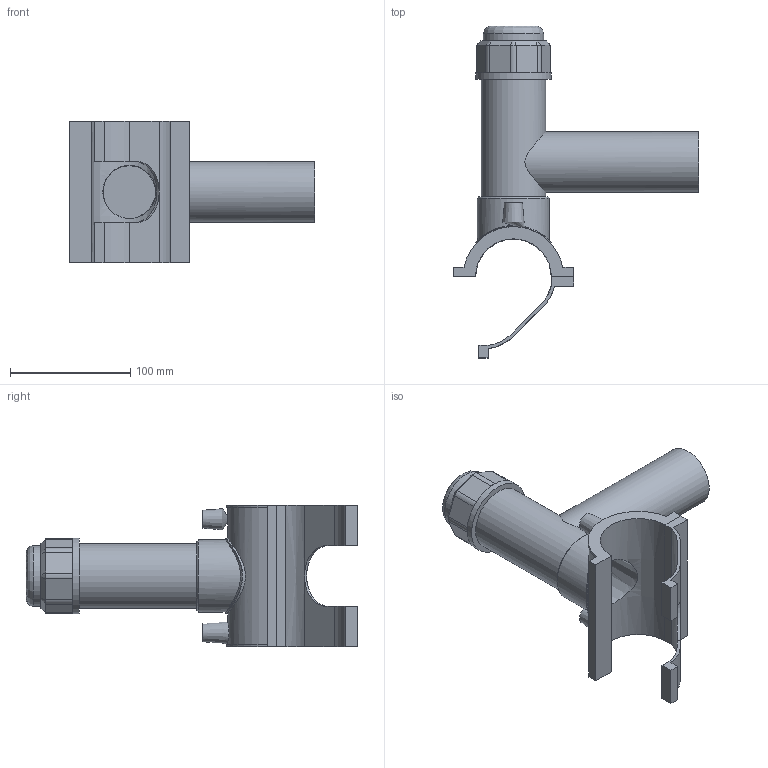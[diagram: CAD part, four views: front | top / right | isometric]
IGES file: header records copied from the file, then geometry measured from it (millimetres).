
Global section: file name: 496304063050.ipt; native system: Autodesk Inventor 2015; preprocessor: unknown; author: KIM; date: 20190124.130647; units: millimetre
Bounding box: 204 x 275.78 x 118 mm (x, y, z)
Volume: 484996.6 mm3; surface area: 147368.2 mm2
Topology: 3 solids, 3 shells, 102 faces, 239 edges, 156 vertices
Faces by surface type: plane 57, cylinder 23, cone 11, revolution 10, bspline 1
Full cylindrical faces by diameter (mm): 4 x2, 50 x1, 50.4 x1, 53.55 x1, 59.85 x1, 63 x2
